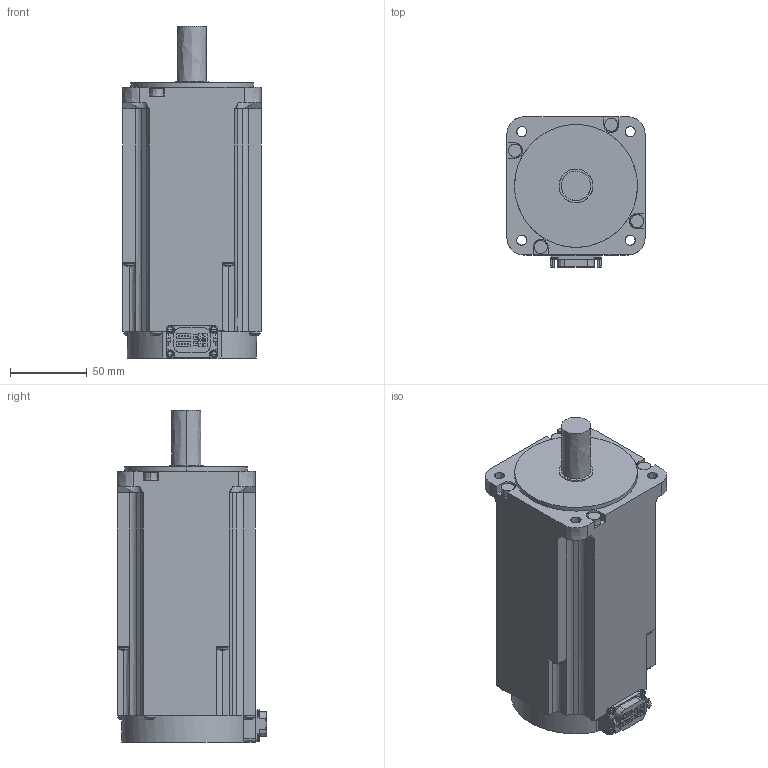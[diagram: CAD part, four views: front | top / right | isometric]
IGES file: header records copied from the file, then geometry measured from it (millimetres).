
Start section:  PTC IGES file: hk-kt203wb_-_asm.igs
Global section: file name: hk-kt203wb_-_asm.igs; native system: Creo Parametric by PTC Inc.; preprocessor: 2016380; author: XE90682; organization: Unknown; date: 20190116.144616; units: millimetre
Bounding box: 90 x 97.65 x 216.3 mm (x, y, z)
Volume: 1244060.3 mm3; surface area: 80513 mm2
Topology: 1 solids, 1 shells, 397 faces, 1028 edges, 652 vertices
Faces by surface type: bspline 397
